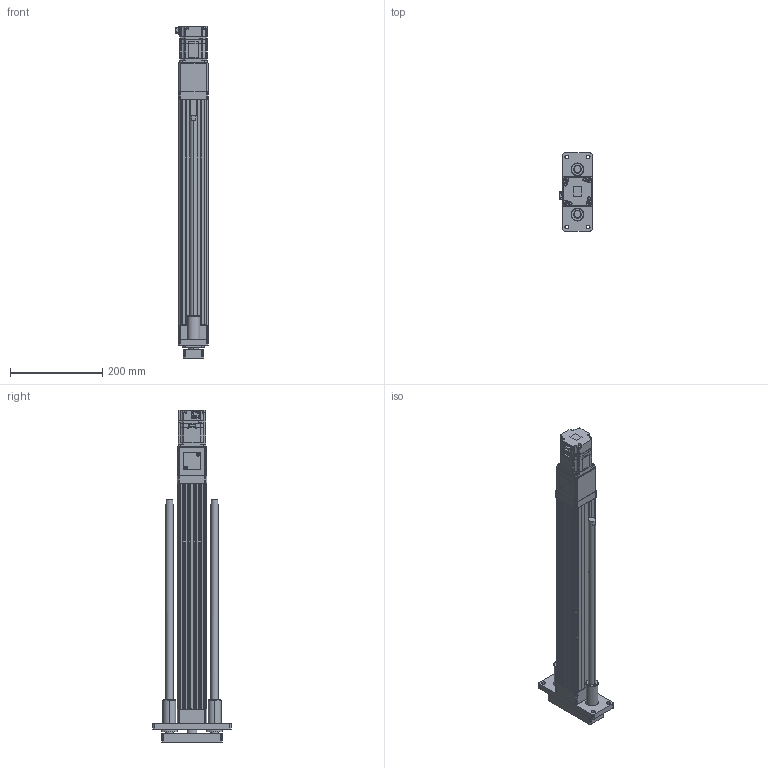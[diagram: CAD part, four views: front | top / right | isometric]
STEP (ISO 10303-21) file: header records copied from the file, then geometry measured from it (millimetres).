
FILE_DESCRIPTION (( 'STEP AP203' ), '1' );
FILE_NAME ('ANS065-GS400-05(10)-W20.STEP', '2019-02-28T08:49:18', ( 'user' ), ( '' ), 'SwSTEP 2.0', 'SolidWorks 2013', '' );
FILE_SCHEMA (( 'CONFIG_CONTROL_DESIGN' ));
Length unit declared in the file: millimetre
Products named in the file (4): sgmjv_02a_a21; ANS065-GS400-05(10)-W20; ANS065 GS400 VER2; ANS065 ROD ST400 G
Assembly tree (3 placements, depth 2):
  ANS065-GS400-05(10)-W20
    ANS065 GS400 VER2
    ANS065 ROD ST400 G
    sgmjv_02a_a21
Bounding box: 71.3 x 170 x 720.6 mm (x, y, z)
Volume: 2190302.1 mm3; surface area: 543726.1 mm2
Topology: 3 solids, 19 shells, 1500 faces, 3817 edges, 2439 vertices
Faces by surface type: plane 832, cylinder 482, cone 182, torus 4
Entity records: 45333 total; most frequent: CARTESIAN_POINT 7996, DIRECTION 7837, ORIENTED_EDGE 7570, EDGE_CURVE 3785, AXIS2_PLACEMENT_3D 2626, LINE 2585, VECTOR 2585, VERTEX_POINT 2439
